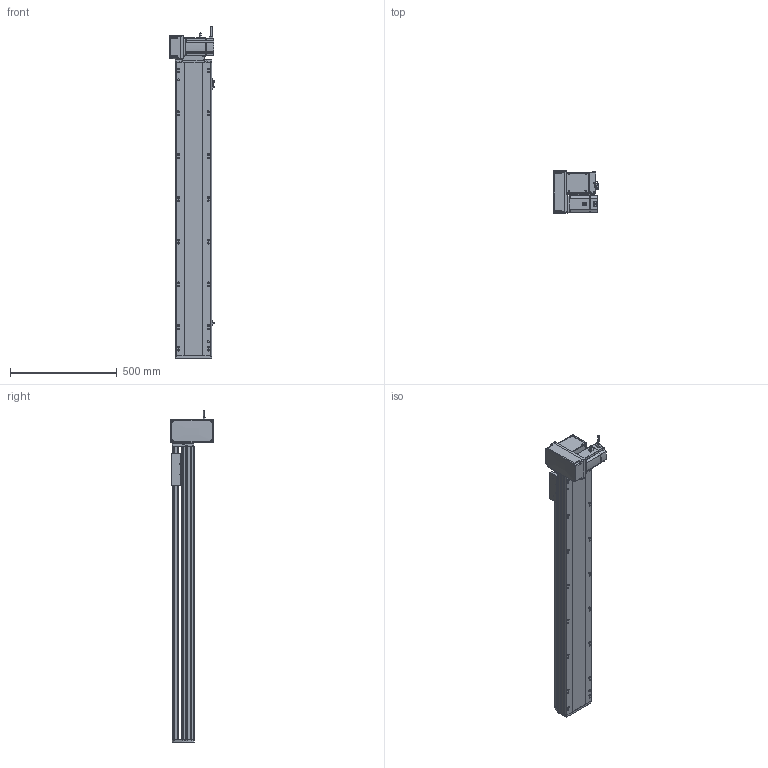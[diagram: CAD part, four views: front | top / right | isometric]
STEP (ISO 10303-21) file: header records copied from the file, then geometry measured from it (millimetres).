
FILE_DESCRIPTION (( 'STEP AP214' ), '1' );
FILE_NAME ('RTB17S-XX-1100-LM-M75-C4.STEP', '2025-12-12T00:39:16', ( '' ), ( '' ), 'SwSTEP 2.0', 'SolidWorks 2018', '' );
FILE_SCHEMA (( 'AUTOMOTIVE_DESIGN' ));
Length unit declared in the file: millimetre
Products named in the file (15): RTB22S-GY-017P^RTB17S-LM-々湍釱蚾饜-750W_RTB17S-XX-XX-LM-M75-C4; RTB22S-GY-005P^RTB17S-LM-々湍釱蚾饜-750W_RTB17S-XX-XX-LM-M75-C4; RTB22S-GY-018P^RTB17S-LM-々湍釱蚾饜-750W_RTB17S-XX-XX-LM-M75-C4; RTB17-R-011菁釱^RTB17S-XX-XX-LM-M75-C4; RTB17S-賑釱^RTB17S-XX-XX-LM-M75-C4; RTB17S-XX-1100-LM-M75-C4; RTB22S-GY-008-M75--萇儂啣^RTB17S-LM-々湍釱蚾饜-750W_RTB17S-XX-XX-LM-M75-C4; RTB17S-L-014-T20-P75--々湍釱^RTB17S-LM-々湍釱蚾饜-750W_RTB17S-XX-XX-LM-M75-C4; RTB17S-L-001-耜醱啣^RTB17S-XX-XX-LM-M75-C4; 750W萇儂^RTB17S-XX-XX-LM-M75-C4; RTB17S-LM-々湍釱蚾饜-750W^RTB17S-XX-XX-LM-M75-C4; RTH13-BL-012覜茼え俋离^RTB17S-賑釱_RTB17S-XX-XX-LM-M75-C4; EE672^RTB17S-XX-XX-LM-M75-C4; RTB17S-L-004-賑釱^RTB17S-賑釱_RTB17S-XX-XX-LM-M75-C4; RTB17S-L-007奻裔^RTB17S-XX-XX-LM-M75-C4
Assembly tree (17 placements, depth 3):
  RTB17S-XX-1100-LM-M75-C4
    RTB17-R-011菁釱^RTB17S-XX-XX-LM-M75-C4
    EE672^RTB17S-XX-XX-LM-M75-C4  x3
    RTB17S-L-001-耜醱啣^RTB17S-XX-XX-LM-M75-C4
    RTB17S-賑釱^RTB17S-XX-XX-LM-M75-C4
      RTB17S-L-004-賑釱^RTB17S-賑釱_RTB17S-XX-XX-LM-M75-C4
      RTH13-BL-012覜茼え俋离^RTB17S-賑釱_RTB17S-XX-XX-LM-M75-C4
    RTB17S-L-007奻裔^RTB17S-XX-XX-LM-M75-C4
    750W萇儂^RTB17S-XX-XX-LM-M75-C4
    RTB17S-LM-々湍釱蚾饜-750W^RTB17S-XX-XX-LM-M75-C4
      RTB17S-L-014-T20-P75--々湍釱^RTB17S-LM-々湍釱蚾饜-750W_RTB17S-XX-XX-LM-M75-C4
      RTB22S-GY-005P^RTB17S-LM-々湍釱蚾饜-750W_RTB17S-XX-XX-LM-M75-C4
      RTB22S-GY-017P^RTB17S-LM-々湍釱蚾饜-750W_RTB17S-XX-XX-LM-M75-C4  x2
      RTB22S-GY-008-M75--萇儂啣^RTB17S-LM-々湍釱蚾饜-750W_RTB17S-XX-XX-LM-M75-C4
      RTB22S-GY-018P^RTB17S-LM-々湍釱蚾饜-750W_RTB17S-XX-XX-LM-M75-C4
Bounding box: 210.4 x 200 x 1552.2 mm (x, y, z)
Volume: 12823633.8 mm3; surface area: 2194651.3 mm2
Topology: 17 solids, 17 shells, 2105 faces, 5836 edges, 3770 vertices
Faces by surface type: plane 972, cylinder 717, bspline 294, cone 110, sphere 8, torus 4
Entity records: 58870 total; most frequent: CARTESIAN_POINT 17300, ORIENTED_EDGE 8516, DIRECTION 7952, EDGE_CURVE 4258, AXIS2_PLACEMENT_3D 2790, VERTEX_POINT 2774, VECTOR 2372, LINE 2372
